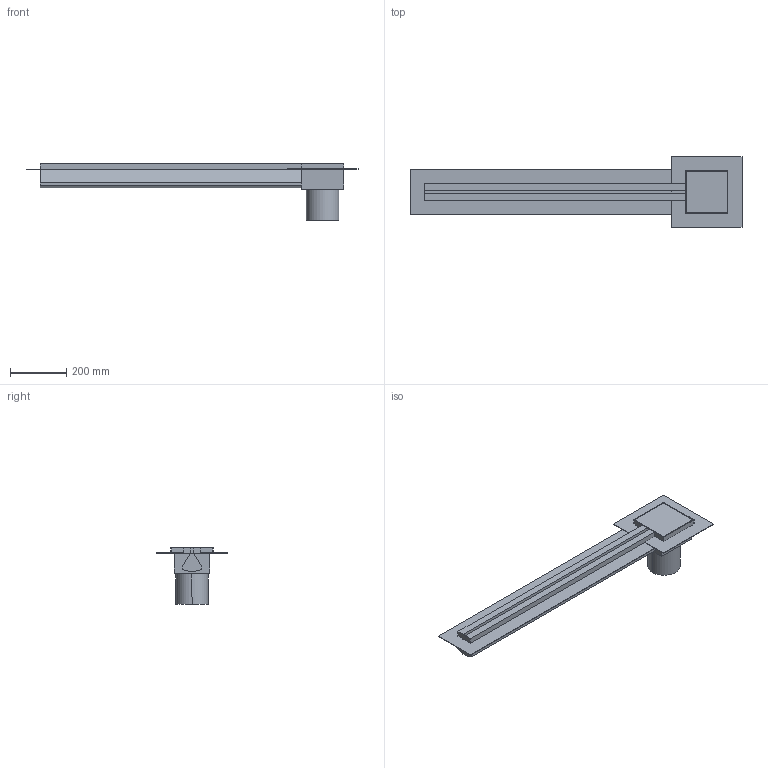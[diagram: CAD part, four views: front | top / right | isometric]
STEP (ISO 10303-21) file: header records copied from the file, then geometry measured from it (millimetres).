
FILE_DESCRIPTION(/* description */ (''),/* implementation_level */ '2;1');
FILE_NAME(/* name */ 'E:\Workspace\resitec\Packs\Kategorie\Entwässerungsrinne\STP\RS772K.65.150Schlitzrinne mit Rand 25mm AuslaufkastenE151mm-4xKR.s.ipt.stp',/* time_stamp */ '2020-10-04T20:57:18+02:00',/* author */ ('ndmes'),/* organization */ (''),/* preprocessor_version */ 'ST-DEVELOPER v18.1',/* originating_system */ 'Autodesk Inventor 2021',/* authorisation */ '');
FILE_SCHEMA (('AUTOMOTIVE_DESIGN { 1 0 10303 214 3 1 1 }'));
Length unit declared in the file: millimetre
Products named in the file (1): RS772K.65.150Schlitzrinne mit Rand 25mm AuslaufkastenE151mm-4xKR.s
Bounding box: 1175.5 x 251 x 200 mm (x, y, z)
Volume: 7541278.7 mm3; surface area: 1042031.6 mm2
Topology: 8 solids, 8 shells, 59 faces, 129 edges, 86 vertices
Faces by surface type: plane 57, cylinder 2
Entity records: 1625 total; most frequent: CARTESIAN_POINT 275, ORIENTED_EDGE 258, DIRECTION 253, EDGE_CURVE 129, LINE 125, VECTOR 125, VERTEX_POINT 86, AXIS2_PLACEMENT_3D 64
